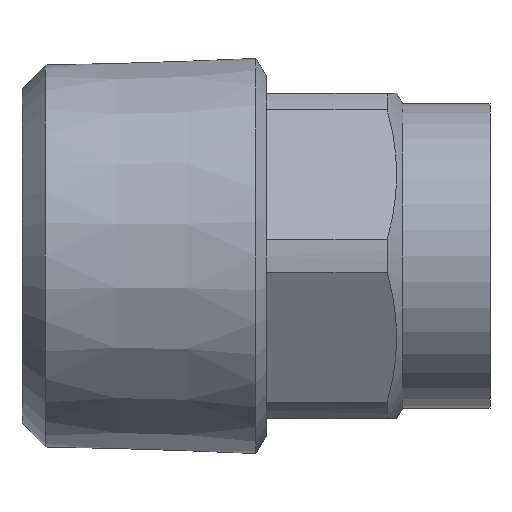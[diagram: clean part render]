
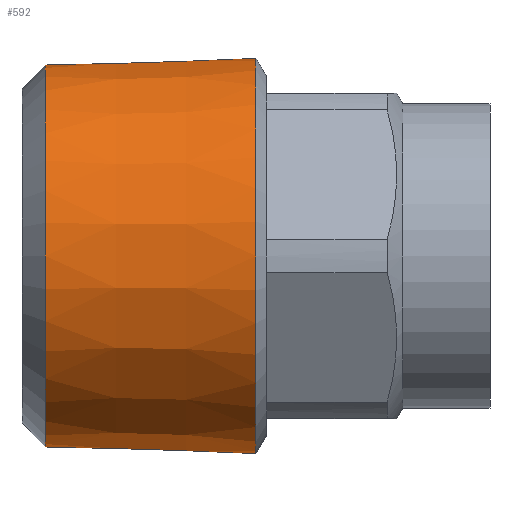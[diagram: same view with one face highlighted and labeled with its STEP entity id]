
A CAD part, front view. The second image highlights one B-rep face of the part: STEP entity #592.
In plain terms, the highlighted conical face has half-angle 1.79 degrees and reference radius 8.286 mm.
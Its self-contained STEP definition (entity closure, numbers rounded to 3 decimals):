
#541=CARTESIAN_POINT('',(1.,8.161,0.));
#542=VERTEX_POINT('',#541);
#543=CARTESIAN_POINT('',(1.,0.0,0.));
#544=DIRECTION('',(-1.0,0.0,0.0));
#545=DIRECTION('',(0.0,-1.0,0.0));
#546=AXIS2_PLACEMENT_3D('',#543,#544,#545);
#547=CIRCLE('',#546,8.161);
#548=EDGE_CURVE('',#542,#542,#547,.T.);
#573=CARTESIAN_POINT('',(5.,0.0,0.0));
#574=DIRECTION('',(1.0,0.0,0.0));
#575=DIRECTION('',(0.0,1.0,0.0));
#576=AXIS2_PLACEMENT_3D('',#573,#574,#575);
#577=CONICAL_SURFACE('',#576,8.286,1.79);
#578=CARTESIAN_POINT('',(10.,8.442,0.0));
#579=VERTEX_POINT('',#578);
#580=CARTESIAN_POINT('',(10.,0.0,0.0));
#581=DIRECTION('',(1.0,0.0,0.0));
#582=DIRECTION('',(0.0,1.0,0.0));
#583=AXIS2_PLACEMENT_3D('',#580,#581,#582);
#584=CIRCLE('',#583,8.442);
#585=EDGE_CURVE('',#579,#579,#584,.T.);
#586=ORIENTED_EDGE('',*,*,#585,.F.);
#587=EDGE_LOOP('',(#586));
#588=FACE_OUTER_BOUND('',#587,.T.);
#589=ORIENTED_EDGE('',*,*,#548,.F.);
#590=EDGE_LOOP('',(#589));
#591=FACE_BOUND('',#590,.T.);
#592=ADVANCED_FACE('',(#588,#591),#577,.T.);
